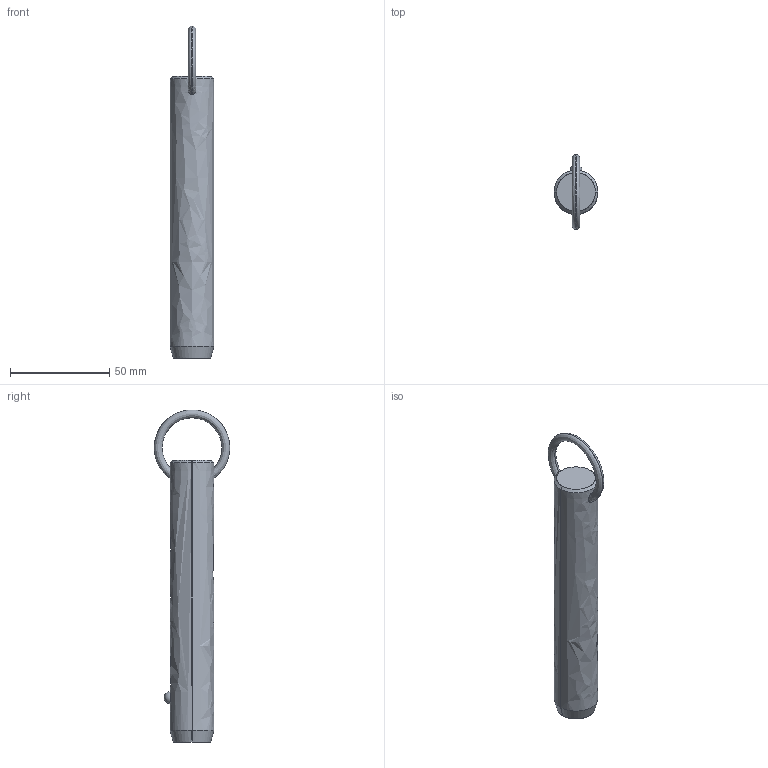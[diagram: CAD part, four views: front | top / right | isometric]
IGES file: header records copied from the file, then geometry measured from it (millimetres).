
Start section: SolidWorks IGES file using analytic representation for surfaces
Global section: file name: C:\Users\liam_\OneDrive\Documents\WORK\Work for WixRoyd\Job Files\J-00019 - Matt Davis CAD Checking\04. CAD Drawings\automotion20190605\P1250.2_v2\P1250.2_v2_20190729_IGES\P1250.087-410.igs; native system: SolidWorks 2017; preprocessor: SolidWorks 2017; author: liam_; date: 190730.001126; units: millimetre
Bounding box: 22.2 x 38.08 x 167.6 mm (x, y, z)
Surface area: 11561.3 mm2 (no closed solid volume)
Topology: 0 solids, 0 shells, 12 faces, 302 edges, 300 vertices
Faces by surface type: revolution 8, bspline 4
